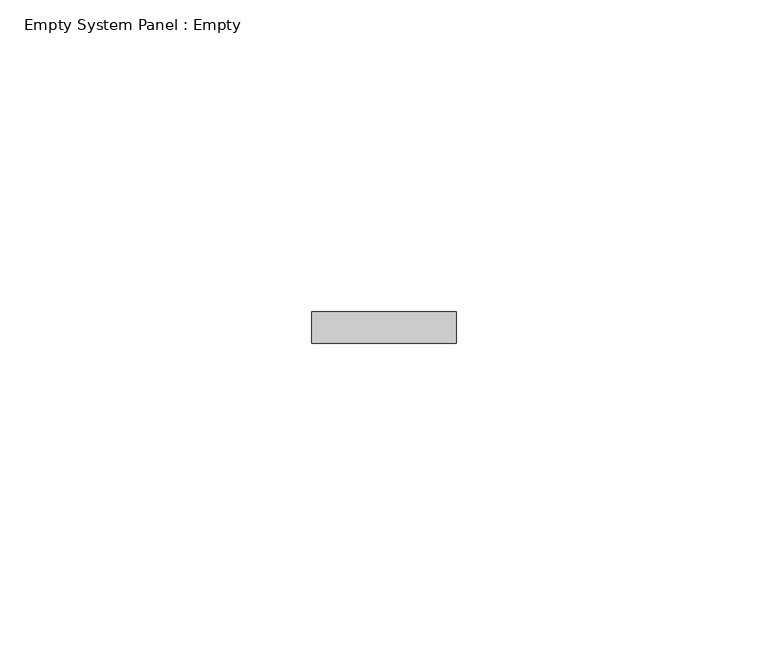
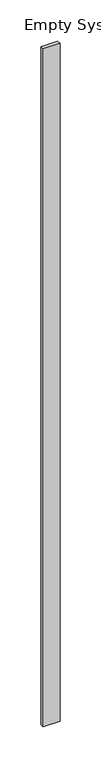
"""IFC4 building model written with IfcOpenShell, lengths in millimetres: plate geometry, Empty System Panel : Empty."""

from ifc_helpers import new_model, si_unit, origin, origin_with_axes, place, context, project, spatial, polyline, outline, extrude, source, transform, mapped, element, save


def empty_system_panel_empty_482ac549(model_context):
    return source(origin(), model_context, "Body", "SweptSolid", [
        extrude(outline(polyline([(11.5722209, 97.5), (-11.5722209, 97.5), (-11.5722209, 102.5), (11.5722209, 102.5), (11.5722209, 97.5)])), origin_with_axes(), (0.0, 0.0, 1.0), 1000.0),
    ])


if __name__ == "__main__":
    model = new_model("IFC4")
    model_context = context("Model", 3, world=origin())
    ifc_project = project(units=[si_unit("LENGTHUNIT", "METRE", prefix="MILLI")], contexts=[model_context])
    site = spatial("IfcSite", under=ifc_project)
    building = spatial("IfcBuilding", under=site)
    placement = place(None, origin())
    empty_system_panel_empty_shape = empty_system_panel_empty_482ac549(model_context)
    element("IfcPlate", 1, ObjectType="Empty System Panel : Empty", at=placement, inside=building, context=model_context, shape_type="MappedRepresentation", body=[
        mapped(empty_system_panel_empty_shape, transform((0.0, 0.0, 0.0), x_axis=(1.0, 0.0, 0.0), y_axis=(0.0, 1.0, 0.0), z_axis=(0.0, 0.0, 1.0))),
    ])
    save(model, "model.ifc")
